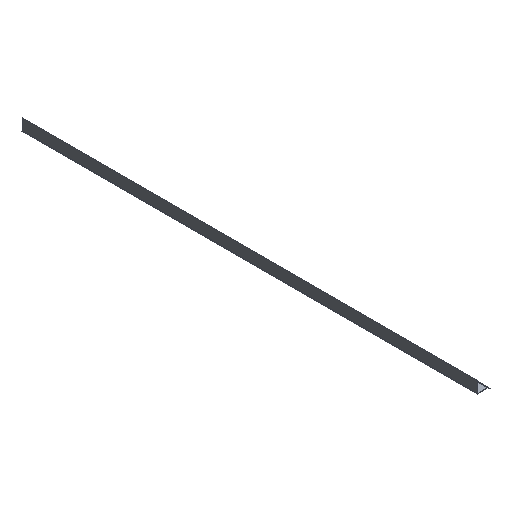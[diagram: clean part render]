
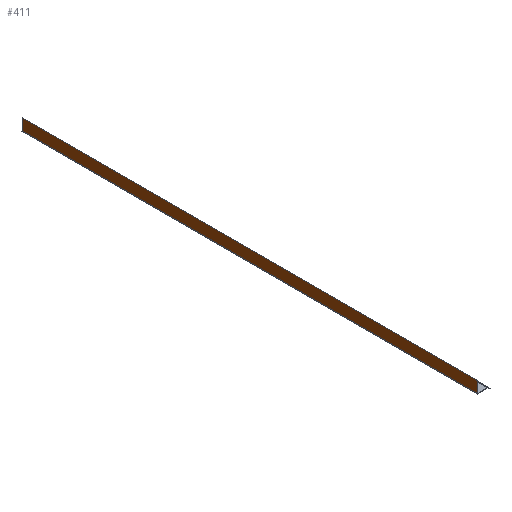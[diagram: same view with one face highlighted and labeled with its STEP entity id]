
A CAD part, isometric view. The second image highlights one B-rep face of the part: STEP entity #411.
In plain terms, the highlighted planar face has unit normal (-1, 0, 0).
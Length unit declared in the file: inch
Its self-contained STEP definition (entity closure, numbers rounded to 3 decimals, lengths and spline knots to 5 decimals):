
#45=FACE_OUTER_BOUND('',#67,.T.);
#67=EDGE_LOOP('',(#295,#296,#297,#298));
#97=LINE('',#646,#141);
#98=LINE('',#649,#142);
#99=LINE('',#651,#143);
#100=LINE('',#652,#144);
#141=VECTOR('',#521,0.3937);
#142=VECTOR('',#524,0.3937);
#143=VECTOR('',#525,0.3937);
#144=VECTOR('',#526,0.3937);
#183=VERTEX_POINT('',#642);
#184=VERTEX_POINT('',#644);
#185=VERTEX_POINT('',#648);
#186=VERTEX_POINT('',#650);
#229=EDGE_CURVE('',#183,#184,#97,.T.);
#230=EDGE_CURVE('',#185,#183,#98,.T.);
#231=EDGE_CURVE('',#186,#184,#99,.T.);
#232=EDGE_CURVE('',#185,#186,#100,.T.);
#295=ORIENTED_EDGE('',*,*,#230,.T.);
#296=ORIENTED_EDGE('',*,*,#229,.T.);
#297=ORIENTED_EDGE('',*,*,#231,.F.);
#298=ORIENTED_EDGE('',*,*,#232,.F.);
#395=PLANE('',#457);
#411=ADVANCED_FACE('',(#45),#395,.T.);
#457=AXIS2_PLACEMENT_3D('',#647,#522,#523);
#521=DIRECTION('',(0.,1.,0.));
#522=DIRECTION('center_axis',(-1.,0.,0.));
#523=DIRECTION('ref_axis',(0.,0.,1.));
#524=DIRECTION('',(0.,0.,1.));
#525=DIRECTION('',(0.,0.,1.));
#526=DIRECTION('',(0.,1.,0.));
#642=CARTESIAN_POINT('',(-0.87741,0.,-0.2296));
#644=CARTESIAN_POINT('',(-0.87741,120.,-0.2296));
#646=CARTESIAN_POINT('',(-0.87741,0.,-0.2296));
#647=CARTESIAN_POINT('Origin',(-0.87741,0.,-3.20615));
#648=CARTESIAN_POINT('',(-0.87741,0.,-3.20615));
#649=CARTESIAN_POINT('',(-0.87741,0.,-3.20615));
#650=CARTESIAN_POINT('',(-0.87741,120.,-3.20615));
#651=CARTESIAN_POINT('',(-0.87741,120.,-3.20615));
#652=CARTESIAN_POINT('',(-0.87741,0.,-3.20615));
